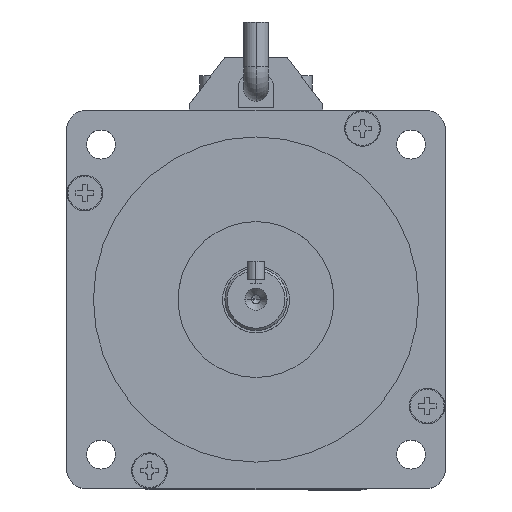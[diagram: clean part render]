
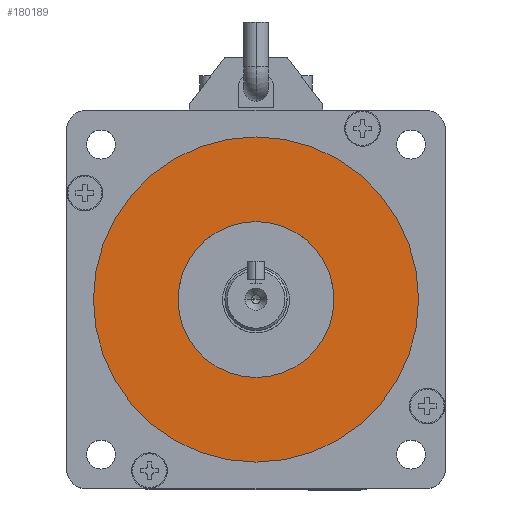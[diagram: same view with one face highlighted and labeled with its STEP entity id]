
A CAD part, top view. The second image highlights one B-rep face of the part: STEP entity #180189.
In plain terms, the highlighted planar face has unit normal (0, 0, 1).
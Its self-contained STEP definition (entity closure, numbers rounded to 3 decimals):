
#3096 = FACE_BOUND ( 'NONE', #8537, .T. ) ;
#8537 = EDGE_LOOP ( 'NONE', ( #66001, #43987 ) ) ;
#8848 = VERTEX_POINT ( 'NONE', #59313 ) ;
#13037 = EDGE_CURVE ( 'NONE', #8848, #138477, #143164, .T. ) ;
#25760 = CARTESIAN_POINT ( 'NONE',  ( 2.502, -2.179, 0.281 ) ) ;
#26622 = CARTESIAN_POINT ( 'NONE',  ( 2.502, -2.179, 0.281 ) ) ;
#31676 = CARTESIAN_POINT ( 'NONE',  ( -33.998, -2.179, 0.281 ) ) ;
#34864 = ORIENTED_EDGE ( 'NONE', *, *, #51617, .T. ) ;
#35245 = DIRECTION ( 'NONE',  ( 0., 0., 1. ) ) ;
#40528 = DIRECTION ( 'NONE',  ( 1., 0., 0. ) ) ;
#41392 = DIRECTION ( 'NONE',  ( 1., 0., 0. ) ) ;
#43987 = ORIENTED_EDGE ( 'NONE', *, *, #64412, .F. ) ;
#46916 = FACE_OUTER_BOUND ( 'NONE', #92850, .T. ) ;
#51617 = EDGE_CURVE ( 'NONE', #133112, #98906, #181427, .T. ) ;
#53075 = AXIS2_PLACEMENT_3D ( 'NONE', #123832, #35245, #138635 ) ;
#59313 = CARTESIAN_POINT ( 'NONE',  ( 20.002, -2.179, 0.281 ) ) ;
#64412 = EDGE_CURVE ( 'NONE', #138477, #8848, #98212, .T. ) ;
#66001 = ORIENTED_EDGE ( 'NONE', *, *, #13037, .F. ) ;
#70938 = DIRECTION ( 'NONE',  ( 0., 0., 1. ) ) ;
#74876 = CARTESIAN_POINT ( 'NONE',  ( -14.998, -2.179, 0.281 ) ) ;
#78672 = CARTESIAN_POINT ( 'NONE',  ( 39.002, -2.179, 0.281 ) ) ;
#82069 = EDGE_CURVE ( 'NONE', #98906, #133112, #93151, .T. ) ;
#83455 = CARTESIAN_POINT ( 'NONE',  ( 2.502, -2.179, 0.281 ) ) ;
#92850 = EDGE_LOOP ( 'NONE', ( #178588, #34864 ) ) ;
#92929 = AXIS2_PLACEMENT_3D ( 'NONE', #83455, #186797, #98362 ) ;
#93151 = CIRCLE ( 'NONE', #120870, 36.5 ) ;
#98212 = CIRCLE ( 'NONE', #109650, 17.5 ) ;
#98362 = DIRECTION ( 'NONE',  ( 1., 0., 0. ) ) ;
#98906 = VERTEX_POINT ( 'NONE', #31676 ) ;
#109650 = AXIS2_PLACEMENT_3D ( 'NONE', #25760, #129136, #40528 ) ;
#114956 = CARTESIAN_POINT ( 'NONE',  ( 2.502, -2.179, 0.281 ) ) ;
#120870 = AXIS2_PLACEMENT_3D ( 'NONE', #26622, #129960, #41392 ) ;
#123832 = CARTESIAN_POINT ( 'NONE',  ( 2.502, -2.179, 0.281 ) ) ;
#129136 = DIRECTION ( 'NONE',  ( 0., 0., 1. ) ) ;
#129960 = DIRECTION ( 'NONE',  ( 0., 0., 1. ) ) ;
#133112 = VERTEX_POINT ( 'NONE', #78672 ) ;
#135904 = AXIS2_PLACEMENT_3D ( 'NONE', #114956, #70938, #174287 ) ;
#138477 = VERTEX_POINT ( 'NONE', #74876 ) ;
#138635 = DIRECTION ( 'NONE',  ( 1., 0., 0. ) ) ;
#143164 = CIRCLE ( 'NONE', #53075, 17.5 ) ;
#174287 = DIRECTION ( 'NONE',  ( 1., 0., 0. ) ) ;
#178588 = ORIENTED_EDGE ( 'NONE', *, *, #82069, .T. ) ;
#180189 = ADVANCED_FACE ( 'NONE', ( #3096, #46916 ), #188512, .T. ) ;
#181427 = CIRCLE ( 'NONE', #92929, 36.5 ) ;
#186797 = DIRECTION ( 'NONE',  ( 0., 0., 1. ) ) ;
#188512 = PLANE ( 'NONE',  #135904 ) ;
